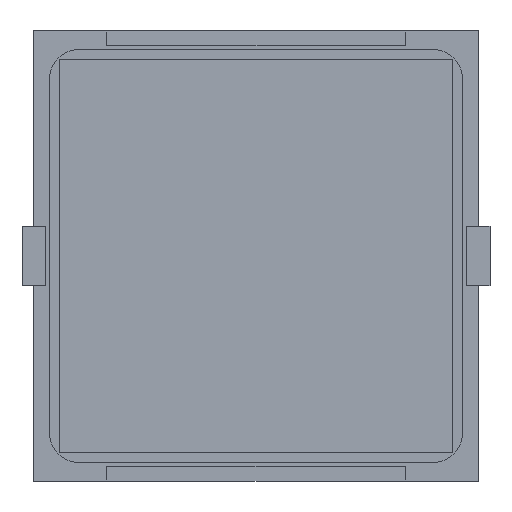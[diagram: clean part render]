
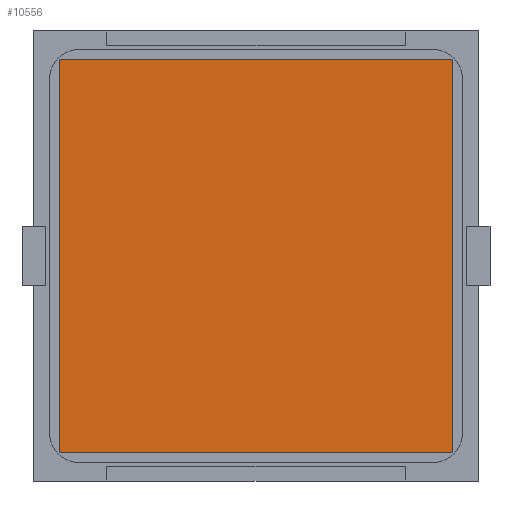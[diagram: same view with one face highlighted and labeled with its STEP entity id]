
A CAD part, front view. The second image highlights one B-rep face of the part: STEP entity #10556.
In plain terms, the highlighted planar face has unit normal (0, -1, 0).
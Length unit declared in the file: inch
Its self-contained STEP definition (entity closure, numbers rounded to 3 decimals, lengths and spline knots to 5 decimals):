
#4 = CARTESIAN_POINT ( 'NONE',  ( -0.64961, -0.005, 0.64961 ) ) ;
#307 = ORIENTED_EDGE ( 'NONE', *, *, #9374, .F. ) ;
#742 = CARTESIAN_POINT ( 'NONE',  ( -0.64961, -0.005, -0.64961 ) ) ;
#774 = PLANE ( 'NONE',  #5276 ) ;
#922 = VECTOR ( 'NONE', #2802, 39.37008 ) ;
#1198 = VERTEX_POINT ( 'NONE', #5576 ) ;
#1966 = CARTESIAN_POINT ( 'NONE',  ( -0.64961, -0.005, -0.64961 ) ) ;
#2802 = DIRECTION ( 'NONE',  ( 1., 0., 0. ) ) ;
#3938 = FACE_OUTER_BOUND ( 'NONE', #4921, .T. ) ;
#4042 = DIRECTION ( 'NONE',  ( 0., 1., 0. ) ) ;
#4295 = CARTESIAN_POINT ( 'NONE',  ( -0.64961, -0.005, 0.64961 ) ) ;
#4430 = CARTESIAN_POINT ( 'NONE',  ( -0.64961, -0.005, -0.64961 ) ) ;
#4545 = EDGE_CURVE ( 'NONE', #7882, #7964, #9352, .T. ) ;
#4768 = DIRECTION ( 'NONE',  ( 0., 0., 1. ) ) ;
#4812 = VERTEX_POINT ( 'NONE', #8250 ) ;
#4831 = DIRECTION ( 'NONE',  ( -1., 0., 0. ) ) ;
#4921 = EDGE_LOOP ( 'NONE', ( #8283, #307, #6980, #10090 ) ) ;
#5263 = DIRECTION ( 'NONE',  ( 0., 0., 1. ) ) ;
#5276 = AXIS2_PLACEMENT_3D ( 'NONE', #4, #4042, #4768 ) ;
#5506 = LINE ( 'NONE', #8022, #6407 ) ;
#5576 = CARTESIAN_POINT ( 'NONE',  ( 0.64961, -0.005, -0.64961 ) ) ;
#6407 = VECTOR ( 'NONE', #9672, 39.37008 ) ;
#6980 = ORIENTED_EDGE ( 'NONE', *, *, #8270, .F. ) ;
#7882 = VERTEX_POINT ( 'NONE', #4430 ) ;
#7964 = VERTEX_POINT ( 'NONE', #4295 ) ;
#7972 = VECTOR ( 'NONE', #4831, 39.37008 ) ;
#8022 = CARTESIAN_POINT ( 'NONE',  ( 0.64961, -0.005, -0.64961 ) ) ;
#8250 = CARTESIAN_POINT ( 'NONE',  ( 0.64961, -0.005, 0.64961 ) ) ;
#8255 = EDGE_CURVE ( 'NONE', #7964, #4812, #9404, .T. ) ;
#8270 = EDGE_CURVE ( 'NONE', #4812, #1198, #5506, .T. ) ;
#8283 = ORIENTED_EDGE ( 'NONE', *, *, #4545, .F. ) ;
#9352 = LINE ( 'NONE', #1966, #10302 ) ;
#9374 = EDGE_CURVE ( 'NONE', #1198, #7882, #9673, .T. ) ;
#9404 = LINE ( 'NONE', #10230, #922 ) ;
#9672 = DIRECTION ( 'NONE',  ( 0., 0., -1. ) ) ;
#9673 = LINE ( 'NONE', #742, #7972 ) ;
#10090 = ORIENTED_EDGE ( 'NONE', *, *, #8255, .F. ) ;
#10230 = CARTESIAN_POINT ( 'NONE',  ( -0.64961, -0.005, 0.64961 ) ) ;
#10302 = VECTOR ( 'NONE', #5263, 39.37008 ) ;
#10556 = ADVANCED_FACE ( 'NONE', ( #3938 ), #774, .F. ) ;
